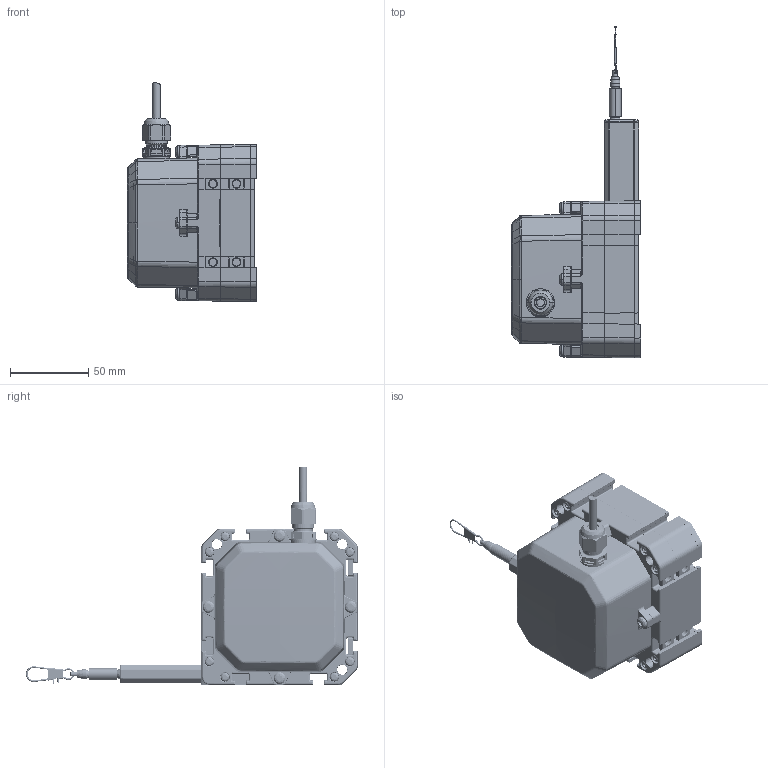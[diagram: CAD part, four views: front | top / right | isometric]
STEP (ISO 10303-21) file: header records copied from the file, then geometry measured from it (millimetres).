
FILE_DESCRIPTION((''),'2;1');
FILE_NAME('WPS-5000-K100-CR-P_SW0001','2020-07-17T13:28:15',('15000411'),(''),'CREO PARAMETRIC BY PTC INC, 2019224','CREO PARAMETRIC BY PTC INC, 2019224','');
FILE_SCHEMA(('AUTOMOTIVE_DESIGN { 1 0 10303 214 1 1 1 1 }'));
Length unit declared in the file: millimetre
Products named in the file (1): WPS-5000-K100-CR-P_SW0001
Bounding box: 82.7 x 211.72 x 139.57 mm (x, y, z)
Volume: 150545.9 mm3; surface area: 123406.1 mm2
Topology: 1 solids, 1 shells, 5002 faces, 12008 edges, 7086 vertices
Faces by surface type: cylinder 1627, plane 1115, bspline 852, torus 772, cone 458, sphere 177, extrusion 1
Entity records: 256470 total; most frequent: CARTESIAN_POINT 85938, ORIENTED_EDGE 24004, DIRECTION 23290, EDGE_CURVE 12002, FILL_AREA_STYLE_COLOUR 9623, FILL_AREA_STYLE 9623, SURFACE_STYLE_FILL_AREA 9623, SURFACE_SIDE_STYLE 9623
